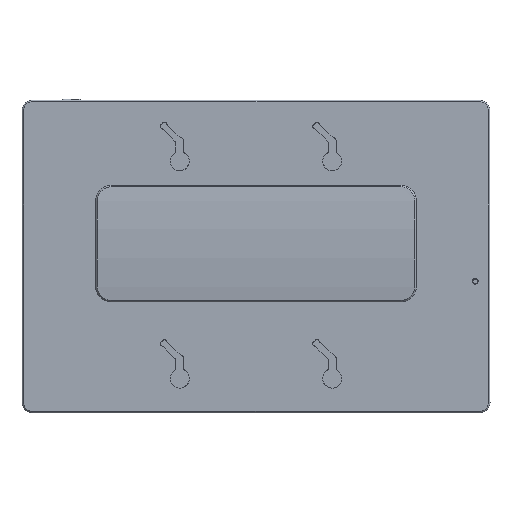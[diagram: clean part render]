
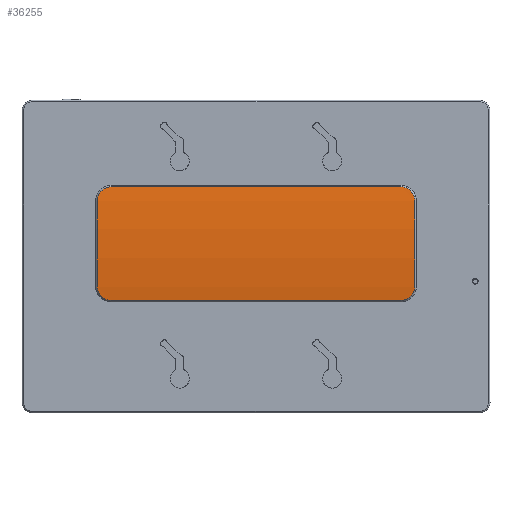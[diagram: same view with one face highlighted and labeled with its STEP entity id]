
A CAD part, front view. The second image highlights one B-rep face of the part: STEP entity #36255.
In plain terms, the highlighted cylindrical face has radius 236.9 mm (diameter 473.8 mm), a partial arc.
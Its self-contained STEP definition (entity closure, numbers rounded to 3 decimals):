
#32851=CARTESIAN_POINT('',(83.2,-15.932,-15.776));
#32852=CARTESIAN_POINT('',(83.2,-15.871,
-16.408));
#32853=CARTESIAN_POINT('',(83.033,-15.744,
-17.679));
#32854=CARTESIAN_POINT('',(82.297,-15.553,
-19.449));
#32855=CARTESIAN_POINT('',(81.129,-15.379,
-20.964));
#32856=CARTESIAN_POINT('',(79.611,-15.238,
-22.123));
#32857=CARTESIAN_POINT('',(77.851,-15.148,
-22.842));
#32858=CARTESIAN_POINT('',(76.617,-15.128,
-23.001));
#32859=CARTESIAN_POINT('',(76.,-15.128,
-23.001));
#32864=DIRECTION('',(-1.,0.,0.));
#32865=VECTOR('',#32864,152.);
#32866=CARTESIAN_POINT('',(76.,-15.128,
-23.001));
#32867=LINE('',#32866,#32865);
#32871=CARTESIAN_POINT('',(-76.,-15.128,
-23.001));
#32872=CARTESIAN_POINT('',(-76.625,-15.128,
-23.001));
#32873=CARTESIAN_POINT('',(-77.881,-15.149,
-22.836));
#32874=CARTESIAN_POINT('',(-79.637,-15.24,
-22.107));
#32875=CARTESIAN_POINT('',(-81.148,-15.381,
-20.946));
#32876=CARTESIAN_POINT('',(-82.31,-15.556,
-19.426));
#32877=CARTESIAN_POINT('',(-83.037,-15.747,
-17.656));
#32878=CARTESIAN_POINT('',(-83.2,-15.872,
-16.402));
#32879=CARTESIAN_POINT('',(-83.2,-15.932,-15.776));
#32884=CARTESIAN_POINT('',(-83.2,219.89,6.8));
#32885=DIRECTION('',(-1.,0.,0.));
#32886=DIRECTION('',(0.,-0.995,-0.095));
#32887=AXIS2_PLACEMENT_3D('',#32884,#32885,#32886);
#32892=CARTESIAN_POINT('',(-83.2,-15.932,29.376));
#32893=CARTESIAN_POINT('',(-83.2,-15.871,
30.008));
#32894=CARTESIAN_POINT('',(-83.033,-15.744,
31.279));
#32895=CARTESIAN_POINT('',(-82.297,-15.553,
33.049));
#32896=CARTESIAN_POINT('',(-81.129,-15.379,
34.564));
#32897=CARTESIAN_POINT('',(-79.611,-15.238,
35.723));
#32898=CARTESIAN_POINT('',(-77.851,-15.148,
36.442));
#32899=CARTESIAN_POINT('',(-76.617,-15.128,
36.601));
#32900=CARTESIAN_POINT('',(-76.,-15.128,
36.601));
#32905=DIRECTION('',(1.,0.,0.));
#32906=VECTOR('',#32905,152.);
#32907=CARTESIAN_POINT('',(-76.,-15.128,
36.601));
#32908=LINE('',#32907,#32906);
#32912=CARTESIAN_POINT('',(76.,-15.128,
36.601));
#32913=CARTESIAN_POINT('',(76.625,-15.128,
36.601));
#32914=CARTESIAN_POINT('',(77.881,-15.149,
36.436));
#32915=CARTESIAN_POINT('',(79.637,-15.24,
35.707));
#32916=CARTESIAN_POINT('',(81.148,-15.381,
34.546));
#32917=CARTESIAN_POINT('',(82.31,-15.556,
33.026));
#32918=CARTESIAN_POINT('',(83.037,-15.747,
31.256));
#32919=CARTESIAN_POINT('',(83.2,-15.872,
30.002));
#32920=CARTESIAN_POINT('',(83.2,-15.932,29.376));
#32925=CARTESIAN_POINT('',(83.2,219.89,6.8));
#32926=DIRECTION('',(1.,0.,0.));
#32927=DIRECTION('',(0.,-0.995,0.095));
#32928=AXIS2_PLACEMENT_3D('',#32925,#32926,#32927);
#35381=VERTEX_POINT('',#32851);
#35382=VERTEX_POINT('',#32859);
#35385=CARTESIAN_POINT('',(-76.,-15.128,
-23.001));
#35386=VERTEX_POINT('',#35385);
#35388=VERTEX_POINT('',#32879);
#35391=CARTESIAN_POINT('',(-83.2,-15.932,29.376));
#35392=VERTEX_POINT('',#35391);
#35394=VERTEX_POINT('',#32900);
#35397=CARTESIAN_POINT('',(76.,-15.128,
36.601));
#35398=VERTEX_POINT('',#35397);
#35400=VERTEX_POINT('',#32920);
#36236=CARTESIAN_POINT('',(105.75,219.89,6.8));
#36237=DIRECTION('',(-1.,0.,0.));
#36238=DIRECTION('',(0.,0.,-1.));
#36239=AXIS2_PLACEMENT_3D('',#36236,#36237,#36238);
#36240=CYLINDRICAL_SURFACE('',#36239,236.9);
#36242=ORIENTED_EDGE('',*,*,#36241,.T.);
#36243=ORIENTED_EDGE('',*,*,#36229,.T.);
#36244=ORIENTED_EDGE('',*,*,#35939,.T.);
#36245=ORIENTED_EDGE('',*,*,#35954,.T.);
#36246=ORIENTED_EDGE('',*,*,#36009,.T.);
#36248=ORIENTED_EDGE('',*,*,#36247,.T.);
#36250=ORIENTED_EDGE('',*,*,#36249,.T.);
#36252=ORIENTED_EDGE('',*,*,#36251,.T.);
#36253=EDGE_LOOP('',(#36242,#36243,#36244,#36245,#36246,#36248,#36250,#36252));
#36254=FACE_OUTER_BOUND('',#36253,.F.);
#36255=ADVANCED_FACE('',(#36254),#36240,.T.);
#32860=B_SPLINE_CURVE_WITH_KNOTS('',3,(#32851,#32852,#32853,#32854,#32855,
#32856,#32857,#32858,#32859),.UNSPECIFIED.,.F.,.F.,(4,1,1,1,1,1,4),(0.,
0.167,0.333,0.5,0.667,
0.833,1.),.UNSPECIFIED.);
#32880=B_SPLINE_CURVE_WITH_KNOTS('',3,(#32871,#32872,#32873,#32874,#32875,
#32876,#32877,#32878,#32879),.UNSPECIFIED.,.F.,.F.,(4,1,1,1,1,1,4),(0.,
0.167,0.333,0.5,0.667,
0.833,1.),.UNSPECIFIED.);
#32888=CIRCLE('',#32887,236.9);
#32901=B_SPLINE_CURVE_WITH_KNOTS('',3,(#32892,#32893,#32894,#32895,#32896,
#32897,#32898,#32899,#32900),.UNSPECIFIED.,.F.,.F.,(4,1,1,1,1,1,4),(0.,
0.167,0.333,0.5,0.667,
0.833,1.),.UNSPECIFIED.);
#32921=B_SPLINE_CURVE_WITH_KNOTS('',3,(#32912,#32913,#32914,#32915,#32916,
#32917,#32918,#32919,#32920),.UNSPECIFIED.,.F.,.F.,(4,1,1,1,1,1,4),(0.,
0.167,0.333,0.5,0.667,
0.833,1.),.UNSPECIFIED.);
#32929=CIRCLE('',#32928,236.9);
#35939=EDGE_CURVE('',#35386,#35388,#32880,.T.);
#35954=EDGE_CURVE('',#35388,#35392,#32888,.T.);
#36009=EDGE_CURVE('',#35392,#35394,#32901,.T.);
#36229=EDGE_CURVE('',#35382,#35386,#32867,.T.);
#36241=EDGE_CURVE('',#35381,#35382,#32860,.T.);
#36247=EDGE_CURVE('',#35394,#35398,#32908,.T.);
#36249=EDGE_CURVE('',#35398,#35400,#32921,.T.);
#36251=EDGE_CURVE('',#35400,#35381,#32929,.T.);
